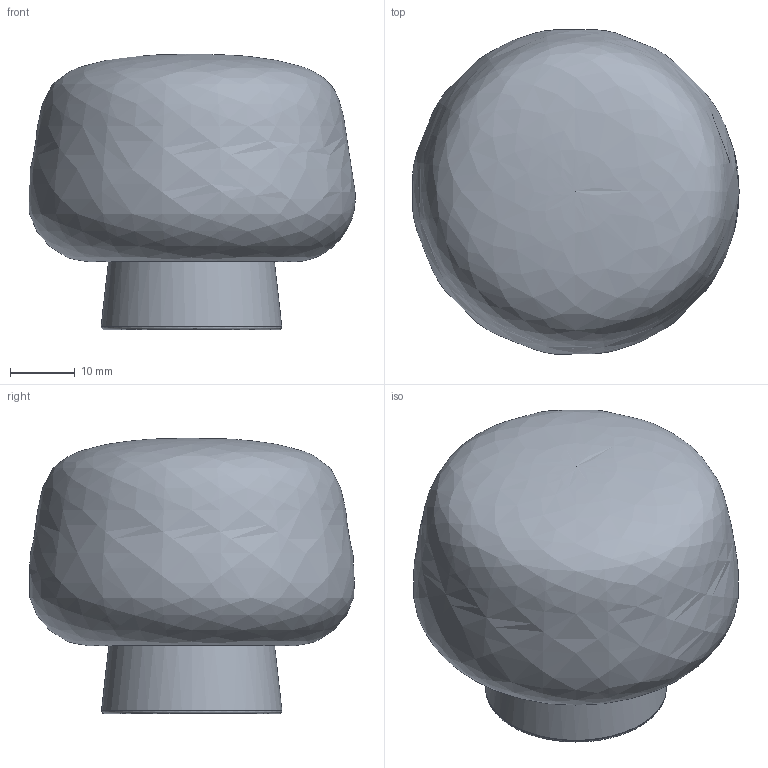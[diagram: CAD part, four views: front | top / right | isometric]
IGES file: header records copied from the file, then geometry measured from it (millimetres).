
Global section: file name: C:\Users\colombo_c\Desktop\Danese\Sito\3D mancanti\Pebosto peso\Pebosto stop.igs; native system: Rhinoceros ( Apr 16 2024 ); preprocessor: Trout Lake IGES 012 Apr 16 2024; date: 250718.094601; units: millimetre
Bounding box: 50.36 x 50.09 x 42.5 mm (x, y, z)
Surface area: 12276.5 mm2 (no closed solid volume)
Topology: 0 solids, 0 shells, 15 faces, 82 edges, 70 vertices
Faces by surface type: bspline 15
